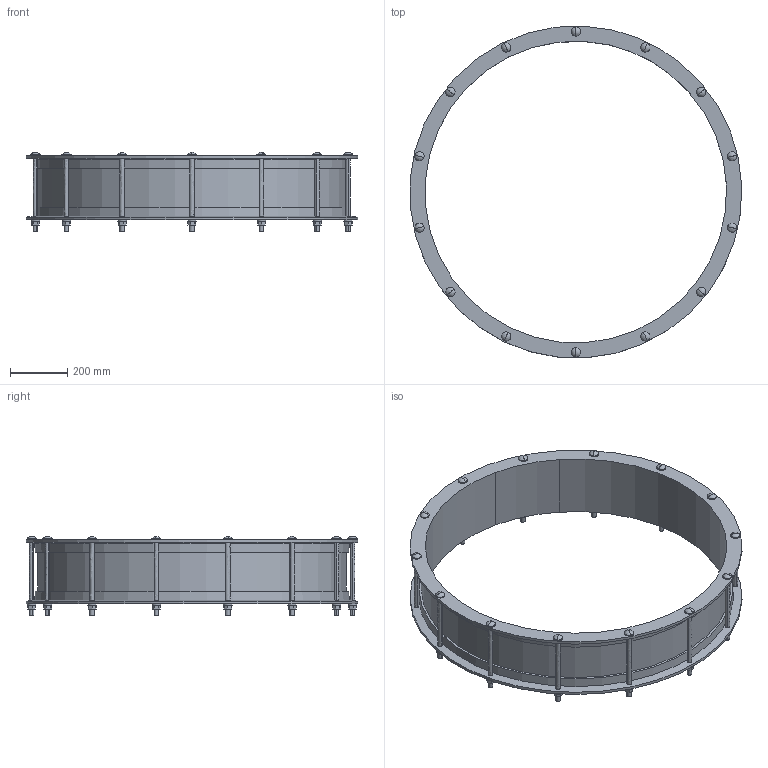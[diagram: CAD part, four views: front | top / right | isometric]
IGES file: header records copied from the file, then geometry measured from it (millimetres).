
Start section:  PTC IGES file: VJC_1048.igs
Global section: file name: VJC_1048.igs; native system: Creo Parametric by PTC Inc.; preprocessor: 2016130; author: mfairey; organization: Unknown; date: 20181206.142108; units: millimetre
Bounding box: 1153.73 x 1153.94 x 276 mm (x, y, z)
Surface area: 2297587.3 mm2 (no closed solid volume)
Topology: 0 solids, 0 shells, 286 faces, 1340 edges, 1312 vertices
Faces by surface type: revolution 156, bspline 130
